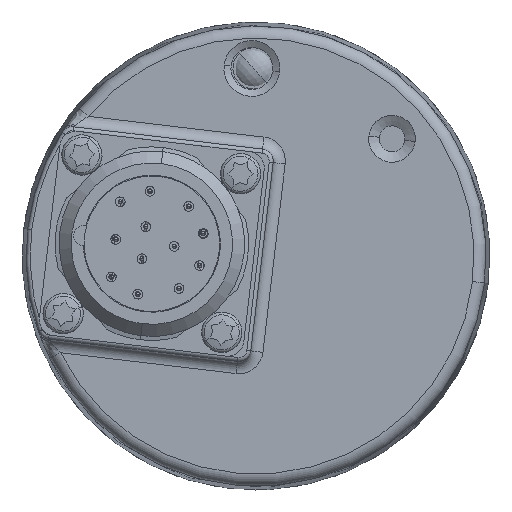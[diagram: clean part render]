
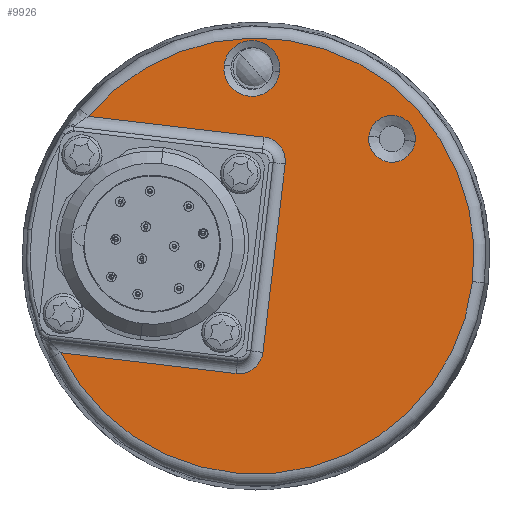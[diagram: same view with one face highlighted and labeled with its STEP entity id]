
A CAD part, left-side view. The second image highlights one B-rep face of the part: STEP entity #9926.
In plain terms, the highlighted planar face has unit normal (-1, 0, 0).
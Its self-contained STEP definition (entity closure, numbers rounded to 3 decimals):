
#8924 = EDGE_CURVE ( 'NONE', #8959, #8947, #11484, .T. ) ;
#8945 = VERTEX_POINT ( 'NONE', #11504 ) ;
#8947 = VERTEX_POINT ( 'NONE', #11562 ) ;
#8953 = EDGE_CURVE ( 'NONE', #8945, #9606, #11464, .T. ) ;
#8959 = VERTEX_POINT ( 'NONE', #11482 ) ;
#9087 = VERTEX_POINT ( 'NONE', #11665 ) ;
#9089 = EDGE_CURVE ( 'NONE', #9106, #9087, #11651, .T. ) ;
#9106 = VERTEX_POINT ( 'NONE', #11677 ) ;
#9606 = VERTEX_POINT ( 'NONE', #11985 ) ;
#9634 = EDGE_CURVE ( 'NONE', #9087, #9106, #11975, .T. ) ;
#9643 = ORIENTED_EDGE ( 'NONE', *, *, #9089, .T. ) ;
#9644 = ORIENTED_EDGE ( 'NONE', *, *, #9634, .T. ) ;
#9645 = EDGE_LOOP ( 'NONE', ( #9804, #10036, #10124, #10125, #10013, #10058, #10005 ) ) ;
#9675 = EDGE_LOOP ( 'NONE', ( #9676, #9677 ) ) ;
#9676 = ORIENTED_EDGE ( 'NONE', *, *, #8924, .T. ) ;
#9677 = ORIENTED_EDGE ( 'NONE', *, *, #9839, .T. ) ;
#9678 = EDGE_LOOP ( 'NONE', ( #9643, #9644 ) ) ;
#9804 = ORIENTED_EDGE ( 'NONE', *, *, #9805, .T. ) ;
#9805 = EDGE_CURVE ( 'NONE', #10032, #10034, #12023, .T. ) ;
#9839 = EDGE_CURVE ( 'NONE', #8947, #8959, #12070, .T. ) ;
#9926 = ADVANCED_FACE ( 'NONE', ( #10791, #10756, #10754 ), #11682, .F. ) ;
#10005 = ORIENTED_EDGE ( 'NONE', *, *, #10063, .F. ) ;
#10011 = VERTEX_POINT ( 'NONE', #12347 ) ;
#10013 = ORIENTED_EDGE ( 'NONE', *, *, #10014, .F. ) ;
#10014 = EDGE_CURVE ( 'NONE', #10016, #10011, #12302, .T. ) ;
#10016 = VERTEX_POINT ( 'NONE', #12304 ) ;
#10032 = VERTEX_POINT ( 'NONE', #12313 ) ;
#10034 = VERTEX_POINT ( 'NONE', #12318 ) ;
#10036 = ORIENTED_EDGE ( 'NONE', *, *, #10123, .T. ) ;
#10058 = ORIENTED_EDGE ( 'NONE', *, *, #10059, .T. ) ;
#10059 = EDGE_CURVE ( 'NONE', #10016, #10060, #11826, .T. ) ;
#10060 = VERTEX_POINT ( 'NONE', #12355 ) ;
#10063 = EDGE_CURVE ( 'NONE', #10032, #10060, #12366, .T. ) ;
#10123 = EDGE_CURVE ( 'NONE', #10034, #8945, #12400, .T. ) ;
#10124 = ORIENTED_EDGE ( 'NONE', *, *, #8953, .T. ) ;
#10125 = ORIENTED_EDGE ( 'NONE', *, *, #10126, .T. ) ;
#10126 = EDGE_CURVE ( 'NONE', #9606, #10011, #12439, .T. ) ;
#10754 = FACE_OUTER_BOUND ( 'NONE', #9645, .T. ) ;
#10756 = FACE_BOUND ( 'NONE', #9678, .T. ) ;
#10791 = FACE_BOUND ( 'NONE', #9675, .T. ) ;
#11411 = DIRECTION ( 'NONE',  ( 0., -0.993, -0.118 ) ) ;
#11412 = DIRECTION ( 'NONE',  ( 1., 0., 0. ) ) ;
#11413 = CARTESIAN_POINT ( 'NONE',  ( -34.46, -25.012, 17.127 ) ) ;
#11414 = AXIS2_PLACEMENT_3D ( 'NONE', #11413, #11412, #11411 ) ;
#11460 = DIRECTION ( 'NONE',  ( 0., -0.993, -0.118 ) ) ;
#11461 = DIRECTION ( 'NONE',  ( -1., 0., 0. ) ) ;
#11462 = CARTESIAN_POINT ( 'NONE',  ( -34.46, -8.157, 2.603 ) ) ;
#11463 = AXIS2_PLACEMENT_3D ( 'NONE', #11462, #11461, #11460 ) ;
#11464 = CIRCLE ( 'NONE', #11463, 27.022 ) ;
#11482 = CARTESIAN_POINT ( 'NONE',  ( -34.46, -22.133, 17.468 ) ) ;
#11484 = CIRCLE ( 'NONE', #11414, 2.899 ) ;
#11504 = CARTESIAN_POINT ( 'NONE',  ( -34.46, -34.991, -0.573 ) ) ;
#11562 = CARTESIAN_POINT ( 'NONE',  ( -34.46, -27.891, 16.786 ) ) ;
#11647 = DIRECTION ( 'NONE',  ( 0., -0.993, -0.118 ) ) ;
#11648 = DIRECTION ( 'NONE',  ( 1., 0., 0. ) ) ;
#11649 = AXIS2_PLACEMENT_3D ( 'NONE', #11653, #11648, #11647 ) ;
#11651 = CIRCLE ( 'NONE', #11649, 3.466 ) ;
#11653 = CARTESIAN_POINT ( 'NONE',  ( -34.46, -7.649, 25.848 ) ) ;
#11665 = CARTESIAN_POINT ( 'NONE',  ( -34.46, -11.091, 25.44 ) ) ;
#11677 = CARTESIAN_POINT ( 'NONE',  ( -34.46, -4.207, 26.255 ) ) ;
#11682 = PLANE ( 'NONE',  #11685 ) ;
#11684 = CARTESIAN_POINT ( 'NONE',  ( -34.46, -8.157, 2.603 ) ) ;
#11685 = AXIS2_PLACEMENT_3D ( 'NONE', #11684, #11689, #11688 ) ;
#11688 = DIRECTION ( 'NONE',  ( 0., -0.993, -0.118 ) ) ;
#11689 = DIRECTION ( 'NONE',  ( 1., 0., 0. ) ) ;
#11775 = DIRECTION ( 'NONE',  ( 1., 0., 0. ) ) ;
#11825 = CARTESIAN_POINT ( 'NONE',  ( -34.46, -8.834, -10.82 ) ) ;
#11826 = LINE ( 'NONE', #11825, #11969 ) ;
#11945 = DIRECTION ( 'NONE',  ( 0., -0.993, -0.118 ) ) ;
#11946 = DIRECTION ( 'NONE',  ( 1., 0., 0. ) ) ;
#11947 = CARTESIAN_POINT ( 'NONE',  ( -34.46, -7.649, 25.848 ) ) ;
#11969 = VECTOR ( 'NONE', #12007, 1000. ) ;
#11974 = AXIS2_PLACEMENT_3D ( 'NONE', #11947, #11946, #11945 ) ;
#11975 = CIRCLE ( 'NONE', #11974, 3.466 ) ;
#11985 = CARTESIAN_POINT ( 'NONE',  ( -34.46, 12.594, 19.912 ) ) ;
#12007 = DIRECTION ( 'NONE',  ( 0., 0.118, -0.993 ) ) ;
#12023 = LINE ( 'NONE', #12024, #12025 ) ;
#12024 = CARTESIAN_POINT ( 'NONE',  ( -34.46, 18.638, -9.079 ) ) ;
#12025 = VECTOR ( 'NONE', #12032, 1000. ) ;
#12028 = DIRECTION ( 'NONE',  ( 0., -0.993, -0.118 ) ) ;
#12032 = DIRECTION ( 'NONE',  ( 0., 0.993, 0.118 ) ) ;
#12070 = CIRCLE ( 'NONE', #12072, 2.899 ) ;
#12071 = CARTESIAN_POINT ( 'NONE',  ( -34.46, -25.012, 17.127 ) ) ;
#12072 = AXIS2_PLACEMENT_3D ( 'NONE', #12071, #11775, #12028 ) ;
#12284 = DIRECTION ( 'NONE',  ( 0., -0.993, -0.118 ) ) ;
#12285 = DIRECTION ( 'NONE',  ( -1., 0., 0. ) ) ;
#12286 = CARTESIAN_POINT ( 'NONE',  ( -34.46, -8.793, 14.36 ) ) ;
#12287 = AXIS2_PLACEMENT_3D ( 'NONE', #12286, #12285, #12284 ) ;
#12302 = CIRCLE ( 'NONE', #12287, 3. ) ;
#12304 = CARTESIAN_POINT ( 'NONE',  ( -34.46, -11.772, 14.007 ) ) ;
#12313 = CARTESIAN_POINT ( 'NONE',  ( -34.46, -5.678, -11.956 ) ) ;
#12318 = CARTESIAN_POINT ( 'NONE',  ( -34.46, 16.062, -9.383 ) ) ;
#12347 = CARTESIAN_POINT ( 'NONE',  ( -34.46, -9.145, 17.339 ) ) ;
#12353 = AXIS2_PLACEMENT_3D ( 'NONE', #12368, #12360, #12371 ) ;
#12355 = CARTESIAN_POINT ( 'NONE',  ( -34.46, -9.01, -9.33 ) ) ;
#12360 = DIRECTION ( 'NONE',  ( -1., 0., 0. ) ) ;
#12366 = CIRCLE ( 'NONE', #12353, 3. ) ;
#12368 = CARTESIAN_POINT ( 'NONE',  ( -34.46, -6.031, -8.977 ) ) ;
#12371 = DIRECTION ( 'NONE',  ( 0., -0.993, -0.118 ) ) ;
#12400 = CIRCLE ( 'NONE', #12408, 27.022 ) ;
#12402 = DIRECTION ( 'NONE',  ( 0., -0.993, -0.118 ) ) ;
#12403 = VECTOR ( 'NONE', #12402, 1000. ) ;
#12404 = CARTESIAN_POINT ( 'NONE',  ( -34.46, -10.635, 17.163 ) ) ;
#12406 = DIRECTION ( 'NONE',  ( -1., 0., 0. ) ) ;
#12407 = CARTESIAN_POINT ( 'NONE',  ( -34.46, -8.157, 2.603 ) ) ;
#12408 = AXIS2_PLACEMENT_3D ( 'NONE', #12407, #12406, #12440 ) ;
#12439 = LINE ( 'NONE', #12404, #12403 ) ;
#12440 = DIRECTION ( 'NONE',  ( 0., -0.993, -0.118 ) ) ;
